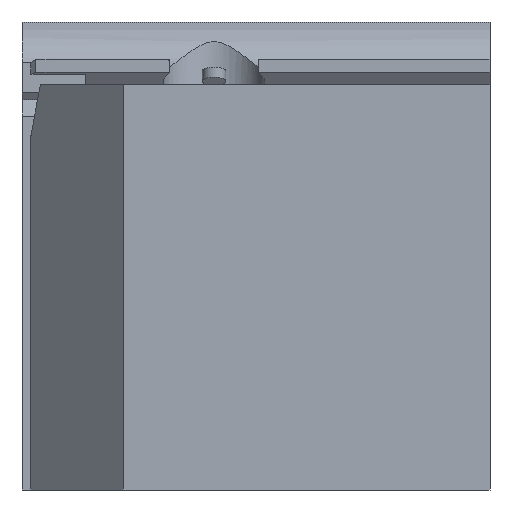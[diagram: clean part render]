
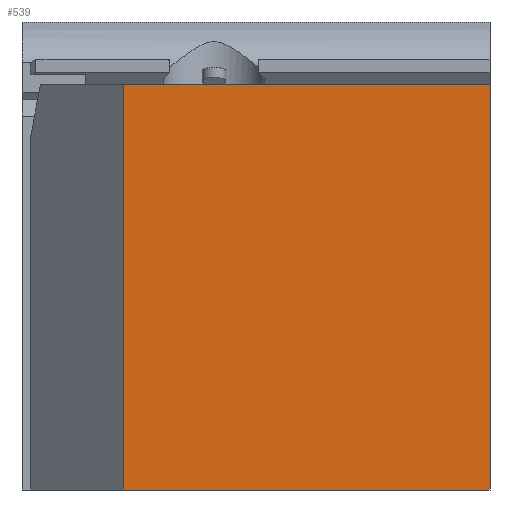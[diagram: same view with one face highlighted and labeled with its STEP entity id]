
A CAD part, front view. The second image highlights one B-rep face of the part: STEP entity #539.
In plain terms, the highlighted planar face has unit normal (0, -1, 0).
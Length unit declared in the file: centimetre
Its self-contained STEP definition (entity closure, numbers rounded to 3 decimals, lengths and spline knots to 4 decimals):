
#10 = ORIENTED_EDGE ( 'NONE', *, *, #1670, .F. ) ;
#12 = DIRECTION ( 'NONE',  ( 0., 0., 1. ) ) ;
#35 = VECTOR ( 'NONE', #1376, 100. ) ;
#97 = CARTESIAN_POINT ( 'NONE',  ( 216.364, 0., 0. ) ) ;
#211 = CARTESIAN_POINT ( 'NONE',  ( 216.364, 0., 866.1757 ) ) ;
#335 = VERTEX_POINT ( 'NONE', #2040 ) ;
#336 = VERTEX_POINT ( 'NONE', #211 ) ;
#411 = CARTESIAN_POINT ( 'NONE',  ( 1000., 0., 1000. ) ) ;
#496 = LINE ( 'NONE', #411, #35 ) ;
#507 = VERTEX_POINT ( 'NONE', #97 ) ;
#510 = PLANE ( 'NONE',  #1293 ) ;
#539 = ADVANCED_FACE ( 'NONE', ( #1813 ), #510, .F. ) ;
#563 = EDGE_CURVE ( 'NONE', #507, #335, #1160, .T. ) ;
#594 = CARTESIAN_POINT ( 'NONE',  ( 216.364, 0., 1000. ) ) ;
#596 = ORIENTED_EDGE ( 'NONE', *, *, #1005, .T. ) ;
#645 = DIRECTION ( 'NONE',  ( 1., 0., 0. ) ) ;
#749 = VECTOR ( 'NONE', #1169, 100. ) ;
#831 = CARTESIAN_POINT ( 'NONE',  ( 0., 0., 0. ) ) ;
#940 = ORIENTED_EDGE ( 'NONE', *, *, #563, .T. ) ;
#1005 = EDGE_CURVE ( 'NONE', #1535, #336, #1379, .T. ) ;
#1013 = CARTESIAN_POINT ( 'NONE',  ( 0., 0., 1000. ) ) ;
#1102 = EDGE_CURVE ( 'NONE', #336, #507, #1420, .T. ) ;
#1145 = ORIENTED_EDGE ( 'NONE', *, *, #1102, .T. ) ;
#1160 = LINE ( 'NONE', #831, #1880 ) ;
#1169 = DIRECTION ( 'NONE',  ( -1., 0., 0. ) ) ;
#1293 = AXIS2_PLACEMENT_3D ( 'NONE', #1013, #1834, #12 ) ;
#1376 = DIRECTION ( 'NONE',  ( 0., 0., -1. ) ) ;
#1379 = LINE ( 'NONE', #1829, #749 ) ;
#1402 = VECTOR ( 'NONE', #2062, 100. ) ;
#1420 = LINE ( 'NONE', #594, #1402 ) ;
#1535 = VERTEX_POINT ( 'NONE', #1899 ) ;
#1590 = EDGE_LOOP ( 'NONE', ( #10, #596, #1145, #940 ) ) ;
#1670 = EDGE_CURVE ( 'NONE', #1535, #335, #496, .T. ) ;
#1813 = FACE_OUTER_BOUND ( 'NONE', #1590, .T. ) ;
#1829 = CARTESIAN_POINT ( 'NONE',  ( 1000., 0., 866.1757 ) ) ;
#1834 = DIRECTION ( 'NONE',  ( 0., 1., 0. ) ) ;
#1880 = VECTOR ( 'NONE', #645, 100. ) ;
#1899 = CARTESIAN_POINT ( 'NONE',  ( 1000., 0., 866.1757 ) ) ;
#2040 = CARTESIAN_POINT ( 'NONE',  ( 1000., 0., 0. ) ) ;
#2062 = DIRECTION ( 'NONE',  ( 0., 0., -1. ) ) ;
